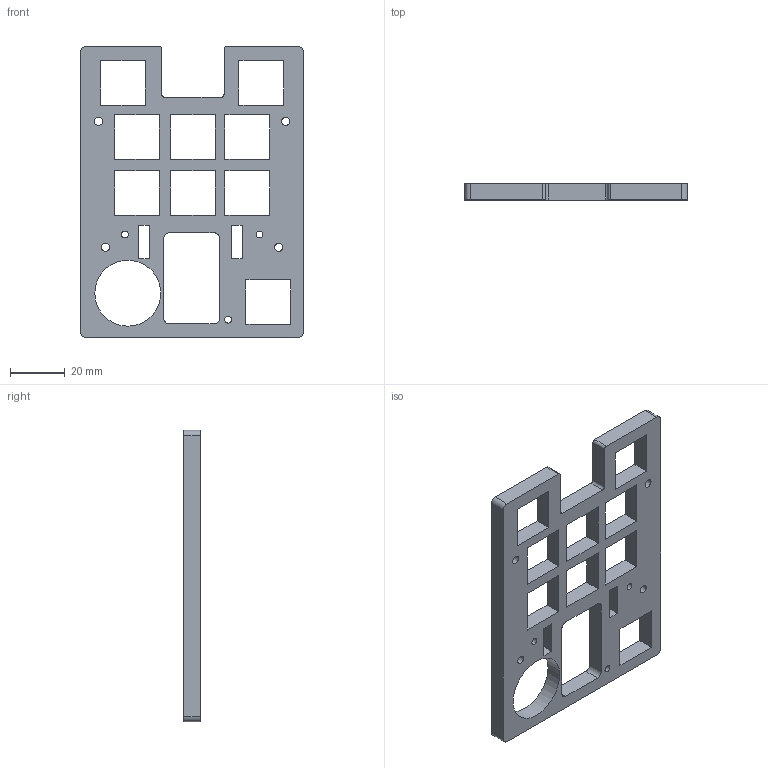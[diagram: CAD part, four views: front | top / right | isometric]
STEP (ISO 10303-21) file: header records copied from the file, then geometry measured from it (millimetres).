
FILE_DESCRIPTION(/* description */ (''),/* implementation_level */ '2;1');
FILE_NAME(/* name */ 'D:/projects/arduino_micro_HID_macro_keyboard/3D CAD files/PCB_Cover_SMD_BOTTOM.step',/* time_stamp */ '2021-09-17T21:13:48+08:00',/* author */ (''),/* organization */ (''),/* preprocessor_version */ 'ST-DEVELOPER v18.1',/* originating_system */ 'Autodesk Translation Framework v10.10.0.1391',/* authorisation */ '');
FILE_SCHEMA (('AUTOMOTIVE_DESIGN { 1 0 10303 214 3 1 1 }'));
Length unit declared in the file: millimetre
Products named in the file (1): PCB_fritzing_PCB_cover_SMD_soldered_at_btm
Bounding box: 81 x 6 x 106 mm (x, y, z)
Volume: 27167.9 mm3; surface area: 16827.2 mm2
Topology: 1 solids, 1 shells, 78 faces, 228 edges, 152 vertices
Faces by surface type: plane 58, cylinder 20
Full cylindrical faces by diameter (mm): 2.5 x3, 3 x4, 24 x1
Entity records: 2692 total; most frequent: CARTESIAN_POINT 459, ORIENTED_EDGE 456, DIRECTION 426, EDGE_CURVE 228, LINE 188, VECTOR 188, VERTEX_POINT 152, AXIS2_PLACEMENT_3D 119
